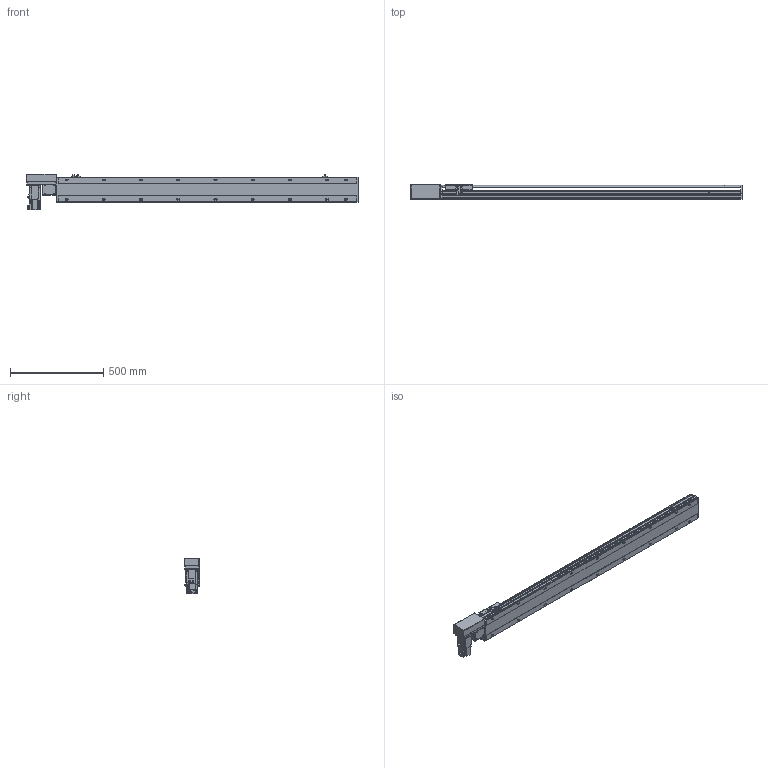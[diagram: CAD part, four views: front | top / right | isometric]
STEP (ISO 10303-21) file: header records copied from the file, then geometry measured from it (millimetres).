
FILE_DESCRIPTION(/* description */ ('STEP AP214'),/* implementation_level */ '2;1');
FILE_NAME(/* name */ 'PBS140-P40-S1350-R-T40-C1-N(0)',/* time_stamp */ '2022-06-06T03:28:29+02:00',/* author */ ('License CC BY-ND 4.0'),/* organization */ ('CADENAS'),/* preprocessor_version */ 'ST-DEVELOPER v18.102',/* originating_system */ 'PARTsolutions',/* authorisation */ ' ');
FILE_SCHEMA (('AUTOMOTIVE_DESIGN {1 0 10303 214 3 1 1}'));
Length unit declared in the file: millimetre
Products named in the file (7): PBS140-P40-S1350-R-T40-C1-N(0); PBS140_sensor; PBS140_plant; PBS140_sliser; T40-p1; PBS140T-R_motors; PBS140-S1350()_body
Assembly tree (8 placements, depth 2):
  PBS140-P40-S1350-R-T40-C1-N(0)
    PBS140_sensor  x3
    PBS140_plant
    PBS140_sliser
    T40-p1
    PBS140T-R_motors
    PBS140-S1350()_body
Bounding box: 1783 x 80.5 x 189.7 mm (x, y, z)
Volume: 7979450.4 mm3; surface area: 1382675.3 mm2
Topology: 8 solids, 8 shells, 1091 faces, 2876 edges, 1879 vertices
Faces by surface type: plane 698, cylinder 339, cone 44, sphere 8, torus 2
Full cylindrical faces by diameter (mm): 3.242 x4, 4 x2, 4.134 x4, 4.4 x8, 4.5 x2, 4.8 x4, 4.917 x26, 5.5 x7, 6 x2, 7 x20, 7.5 x8, 8 x12, 8.5 x4, 10.5 x18, 14 x1, 30 x2, 50 x2
Entity records: 31103 total; most frequent: CARTESIAN_POINT 5777, DIRECTION 5267, ORIENTED_EDGE 4972, EDGE_CURVE 2486, AXIS2_PLACEMENT_3D 1837, VERTEX_POINT 1725, LINE 1593, VECTOR 1593
